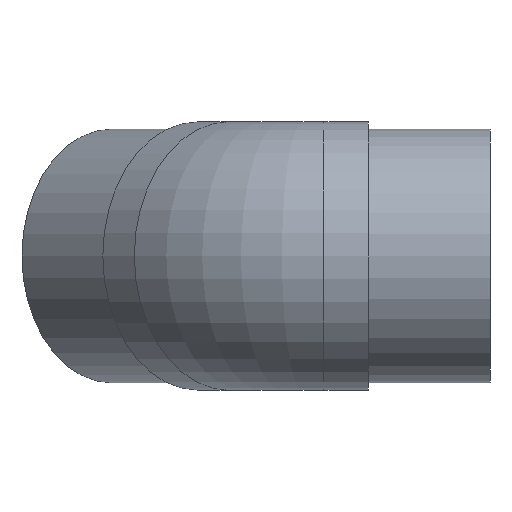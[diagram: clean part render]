
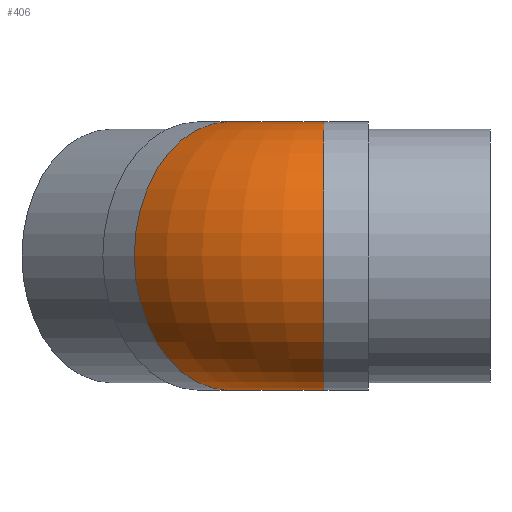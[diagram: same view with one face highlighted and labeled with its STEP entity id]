
A CAD part, left-side view. The second image highlights one B-rep face of the part: STEP entity #406.
In plain terms, the highlighted toroidal (fillet/blend) face has major radius 187.592 mm and minor radius 187.5 mm.
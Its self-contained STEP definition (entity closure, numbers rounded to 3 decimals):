
#355=CARTESIAN_POINT('',(187.5,-77.703,0.));
#356=VERTEX_POINT('',#355);
#357=CARTESIAN_POINT('',(-187.5,-77.703,0.));
#358=VERTEX_POINT('',#357);
#359=CARTESIAN_POINT('',(0.,-77.703,0.));
#360=DIRECTION('',(0.,1.,0.));
#361=DIRECTION('',(1.,0.,0.));
#362=AXIS2_PLACEMENT_3D('',#359,#360,#361);
#363=CIRCLE('',#362,187.5);
#364=EDGE_CURVE('',#356,#358,#363,.T.);
#366=EDGE_CURVE('',#358,#356,#363,.T.);
#376=CARTESIAN_POINT('',(187.527,-77.638,0.));
#377=VERTEX_POINT('',#376);
#378=CARTESIAN_POINT('',(-77.638,187.527,0.));
#379=VERTEX_POINT('',#378);
#380=CARTESIAN_POINT('',(54.945,54.945,0.));
#381=DIRECTION('',(-0.707,-0.707,0.));
#382=DIRECTION('',(0.707,-0.707,0.));
#383=AXIS2_PLACEMENT_3D('',#380,#381,#382);
#384=CIRCLE('',#383,187.5);
#385=EDGE_CURVE('',#377,#379,#384,.T.);
#386=ORIENTED_EDGE('',*,*,#385,.T.);
#387=CARTESIAN_POINT('',(187.592,-77.703,0.));
#388=DIRECTION('',(0.,0.,-1.));
#389=DIRECTION('',(-1.,0.,0.));
#390=AXIS2_PLACEMENT_3D('',#387,#388,#389);
#391=CIRCLE('',#390,375.092);
#392=EDGE_CURVE('',#358,#379,#391,.T.);
#393=ORIENTED_EDGE('',*,*,#392,.F.);
#394=ORIENTED_EDGE('',*,*,#366,.T.);
#395=ORIENTED_EDGE('',*,*,#364,.T.);
#396=ORIENTED_EDGE('',*,*,#392,.T.);
#397=EDGE_CURVE('',#379,#377,#384,.T.);
#398=ORIENTED_EDGE('',*,*,#397,.T.);
#399=EDGE_LOOP('',(#386,#393,#394,#395,#396,#398));
#400=FACE_OUTER_BOUND('',#399,.T.);
#401=CARTESIAN_POINT('',(187.592,-77.703,0.));
#402=DIRECTION('',(0.,0.,-1.));
#403=DIRECTION('',(-1.,0.,0.));
#404=AXIS2_PLACEMENT_3D('',#401,#402,#403);
#405=TOROIDAL_SURFACE('',#404,187.592,187.5);
#406=ADVANCED_FACE('',(#400),#405,.T.);
